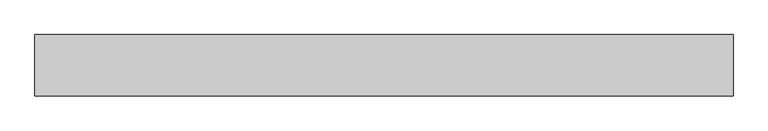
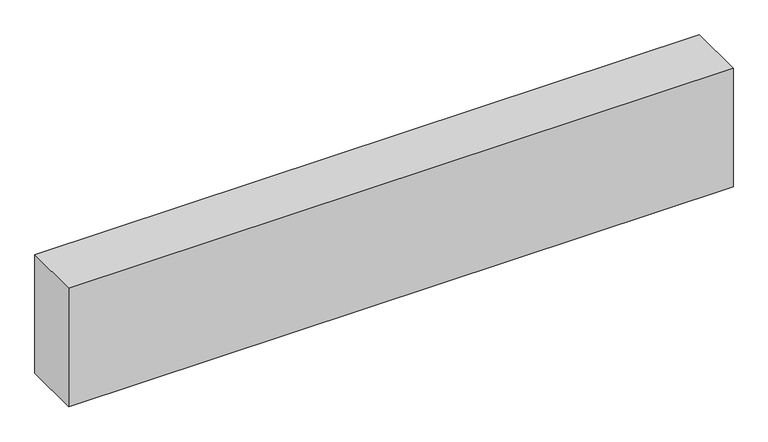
"""IFC4 building model written with IfcOpenShell, lengths in millimetres: proxy geometry."""

from ifc_helpers import new_model, si_unit, frame, origin, place, context, project, spatial, polyline, outline, extrude, source, transform, mapped, element, save


def structural_framing_7e0f138e(model_context):
    return source(origin(), model_context, "Body", "SweptSolid", [
        extrude(outline(polyline([(-797.5, -70.0), (-797.5, 70.0), (797.5, 70.0), (797.5, -70.0), (-797.5, -70.0)])), frame((0.0, 0.0, -300.0), z_axis=(0.0, 0.0, 1.0), x_axis=(1.0, 0.0, 0.0)), (0.0, 0.0, 1.0), 300.0),
    ])


if __name__ == "__main__":
    model = new_model("IFC4")
    model_context = context("Model", 3, world=origin())
    ifc_project = project(units=[si_unit("LENGTHUNIT", "METRE", prefix="MILLI")], contexts=[model_context])
    site = spatial("IfcSite", under=ifc_project)
    building = spatial("IfcBuilding", under=site)
    placement = place(None, origin())
    structural_framing_shape = structural_framing_7e0f138e(model_context)
    element("IfcBuildingElementProxy", 1, Name="Structural Framing", at=placement, inside=building, context=model_context, shape_type="MappedRepresentation", body=[
        mapped(structural_framing_shape, transform((0.0, 0.0, 0.0), x_axis=(1.0, 0.0, 0.0), y_axis=(0.0, 1.0, 0.0), z_axis=(0.0, 0.0, 1.0))),
    ])
    save(model, "model.ifc")
